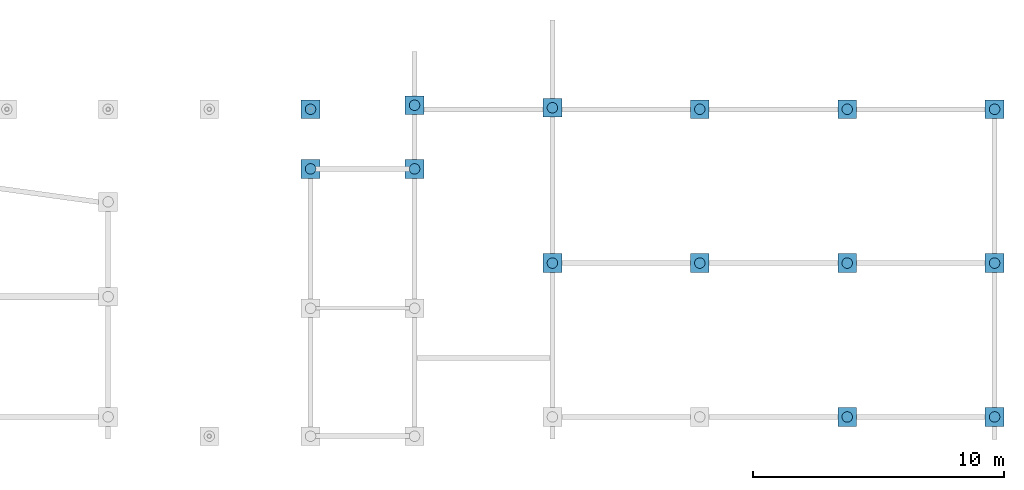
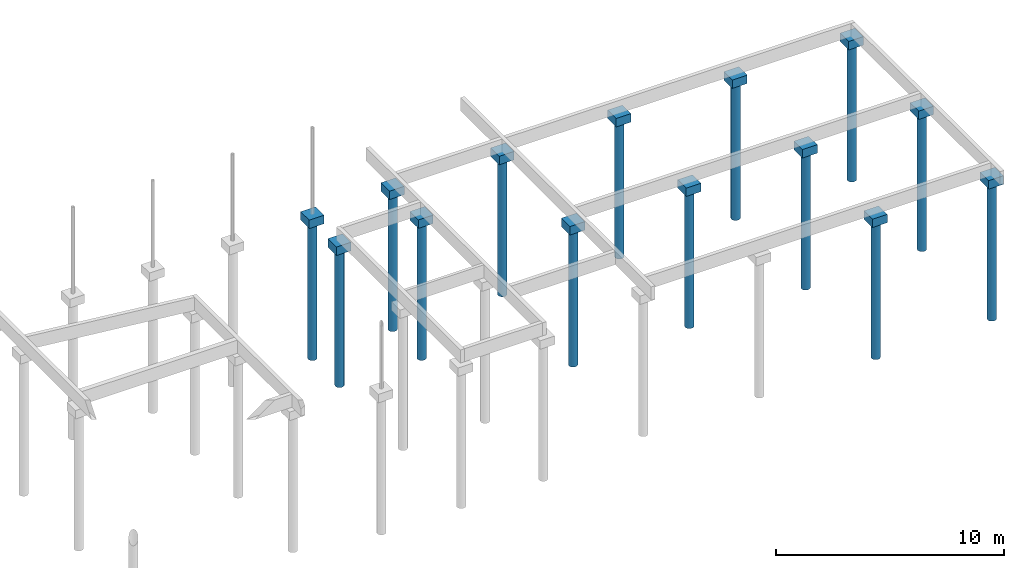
# One storey, part 3 of 3: 28 slabs.
"""IFC2X3 building model written with IfcOpenShell, lengths in metres."""

from ifc_helpers import new_model, entity, si_unit, converted_unit, derived_unit, direction, frame, frame_2d, origin, origin_2d_with_axis, place, context, subcontext, project, spatial, rectangle, circle, extrude, material, element, save


model = new_model("IFC2X3")

# Units and contexts
model_context = context("Model", 3, precision=1e-05, world=origin(), true_north=direction((6.12303176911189e-17, 1.0)))
body_context = subcontext(model_context, "Body", "Model", "MODEL_VIEW")
ifc_project = project(units=[si_unit("LENGTHUNIT", "METRE"), si_unit("AREAUNIT", "SQUARE_METRE"), si_unit("VOLUMEUNIT", "CUBIC_METRE"), converted_unit("PLANEANGLEUNIT", "DEGREE", entity("IfcRatioMeasure", 0.0174532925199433), si_unit("PLANEANGLEUNIT", "RADIAN"), dimensions=[0, 0, 0, 0, 0, 0, 0]), si_unit("MASSUNIT", "GRAM", prefix="KILO"), si_unit("TIMEUNIT", "SECOND"), si_unit("FREQUENCYUNIT", "HERTZ"), si_unit("THERMODYNAMICTEMPERATUREUNIT", "DEGREE_CELSIUS"), derived_unit("THERMALTRANSMITTANCEUNIT", [(si_unit("MASSUNIT", "GRAM", prefix="KILO"), 1), (si_unit("THERMODYNAMICTEMPERATUREUNIT", "KELVIN"), -1), (si_unit("TIMEUNIT", "SECOND"), -3)]), derived_unit("VOLUMETRICFLOWRATEUNIT", [(si_unit("LENGTHUNIT", "METRE"), 3), (si_unit("TIMEUNIT", "SECOND"), -1)]), si_unit("ELECTRICCURRENTUNIT", "AMPERE"), si_unit("ELECTRICVOLTAGEUNIT", "VOLT"), si_unit("POWERUNIT", "WATT"), si_unit("FORCEUNIT", "NEWTON", prefix="KILO"), si_unit("ILLUMINANCEUNIT", "LUX"), si_unit("LUMINOUSFLUXUNIT", "LUMEN"), si_unit("LUMINOUSINTENSITYUNIT", "CANDELA"), derived_unit("USERDEFINED", [(si_unit("MASSUNIT", "GRAM", prefix="KILO"), -1), (si_unit("LENGTHUNIT", "METRE"), -2), (si_unit("TIMEUNIT", "SECOND"), 3), (si_unit("LUMINOUSFLUXUNIT", "LUMEN"), 1)]), derived_unit("LINEARVELOCITYUNIT", [(si_unit("LENGTHUNIT", "METRE"), 1), (si_unit("TIMEUNIT", "SECOND"), -1)]), si_unit("PRESSUREUNIT", "PASCAL"), derived_unit("USERDEFINED", [(si_unit("LENGTHUNIT", "METRE"), -2), (si_unit("MASSUNIT", "GRAM", prefix="KILO"), 1), (si_unit("TIMEUNIT", "SECOND"), -2)])], contexts=[model_context])

# Site, building, storey
site_placement = place(None, origin())
site = spatial("IfcSite", under=ifc_project, at=site_placement, Name="Default", CompositionType="ELEMENT")
building_placement = place(site_placement, origin())
building = spatial("IfcBuilding", under=site, at=building_placement, CompositionType="ELEMENT")
storey_placement = place(building_placement, frame((0.0, 0.0, -0.77)))
storey = spatial("IfcBuildingStorey", under=building, at=storey_placement, Name="Fondation", CompositionType="ELEMENT", Elevation=-0.77)

# Slabs
ifc_material_1 = material(Name="Béton - Béton coulé sur place")
slab_1_placement = place(storey_placement, frame((-6.40051543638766, 6.77024988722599, -0.45)))
element("IfcSlab", 1, at=slab_1_placement, inside=storey, material=ifc_material_1, Name="Base rectangulaire:Semelle 0.75 x 0.75 x 0.45", ObjectType="Base rectangulaire:Semelle 0.75 x 0.75 x 0.45", PredefinedType="FLOOR", context=body_context, shape_type="SweptSolid", body=[
    extrude(rectangle(XDim=0.75, YDim=0.75, at=frame_2d((5.27355936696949e-16, -5.27355936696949e-16), x_axis=(1.0, 0.0))), frame((0.374999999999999, 0.374999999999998, 0.0), z_axis=(0.0, 0.0, 1.0), x_axis=(-1.0, 0.0, 0.0)), (0.0, 0.0, 1.0), 0.45),
    extrude(rectangle(XDim=0.75, YDim=0.75, at=frame_2d((5.27355936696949e-16, -5.27355936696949e-16), x_axis=(1.0, 0.0))), frame((0.374999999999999, 0.374999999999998, 0.0), z_axis=(0.0, 0.0, 1.0), x_axis=(-1.0, 0.0, 0.0)), (0.0, 0.0, 1.0), 0.45),
])
ifc_material_2 = material(Name="Maçonnerie - Béton coulé sur place")
slab_2_placement = place(storey_placement, frame((-6.23710293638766, 6.93519352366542, -7.73)))
element("IfcSlab", 2, at=slab_2_placement, inside=storey, material=ifc_material_2, Name="Pieu-Conduite en acier:Pieu 420mm", ObjectType="Pieu-Conduite en acier:Pieu 420mm", PredefinedType="FLOOR", context=body_context, shape_type="SweptSolid", body=[
    extrude(circle(Radius=0.21, at=origin_2d_with_axis()), frame((0.2115875, 0.210056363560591, 0.0)), (0.0, 0.0, 1.0), 7.28),
])
slab_3_placement = place(storey_placement, frame((-2.24743030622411, 6.77024988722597, -0.45)))
element("IfcSlab", 3, at=slab_3_placement, inside=storey, material=ifc_material_1, Name="Base rectangulaire:Semelle 0.75 x 0.75 x 0.45", ObjectType="Base rectangulaire:Semelle 0.75 x 0.75 x 0.45", PredefinedType="FLOOR", context=body_context, shape_type="SweptSolid", body=[
    extrude(rectangle(XDim=0.75, YDim=0.75, at=frame_2d((-1.38777878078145e-16, -5.27355936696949e-16), x_axis=(1.0, 0.0))), frame((0.375, 0.374999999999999, 0.0), z_axis=(0.0, 0.0, 1.0), x_axis=(-1.0, 0.0, 0.0)), (0.0, 0.0, 1.0), 0.45),
    extrude(rectangle(XDim=0.75, YDim=0.75, at=frame_2d((-1.38777878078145e-16, -5.27355936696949e-16), x_axis=(1.0, 0.0))), frame((0.375, 0.374999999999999, 0.0), z_axis=(0.0, 0.0, 1.0), x_axis=(-1.0, 0.0, 0.0)), (0.0, 0.0, 1.0), 0.45),
])
slab_4_placement = place(storey_placement, frame((-2.08401780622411, 6.9351935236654, -7.73)))
element("IfcSlab", 4, at=slab_4_placement, inside=storey, material=ifc_material_2, Name="Pieu-Conduite en acier:Pieu 420mm", ObjectType="Pieu-Conduite en acier:Pieu 420mm", PredefinedType="FLOOR", context=body_context, shape_type="SweptSolid", body=[
    extrude(circle(Radius=0.21, at=origin_2d_with_axis()), frame((0.2115875, 0.210056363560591, 0.0)), (0.0, 0.0, 1.0), 7.28),
])
slab_5_placement = place(storey_placement, frame((-6.40051543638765, 9.15024996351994, -0.45)))
element("IfcSlab", 5, at=slab_5_placement, inside=storey, material=ifc_material_1, Name="Base rectangulaire:Semelle 0.75 x 0.75 x 0.45", ObjectType="Base rectangulaire:Semelle 0.75 x 0.75 x 0.45", PredefinedType="FLOOR", context=body_context, shape_type="SweptSolid", body=[
    extrude(rectangle(XDim=0.75, YDim=0.75, at=frame_2d((5.27355936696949e-16, -5.27355936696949e-16), x_axis=(1.0, 0.0))), frame((0.374999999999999, 0.374999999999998, 0.0), z_axis=(0.0, 0.0, 1.0), x_axis=(-1.0, 0.0, 0.0)), (0.0, 0.0, 1.0), 0.45),
    extrude(rectangle(XDim=0.75, YDim=0.75, at=frame_2d((5.27355936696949e-16, -5.27355936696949e-16), x_axis=(1.0, 0.0))), frame((0.374999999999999, 0.374999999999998, 0.0), z_axis=(0.0, 0.0, 1.0), x_axis=(-1.0, 0.0, 0.0)), (0.0, 0.0, 1.0), 0.45),
])
slab_6_placement = place(storey_placement, frame((-6.23710293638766, 9.31519359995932, -7.73)))
element("IfcSlab", 6, at=slab_6_placement, inside=storey, material=ifc_material_2, Name="Pieu-Conduite en acier:Pieu 420mm", ObjectType="Pieu-Conduite en acier:Pieu 420mm", PredefinedType="FLOOR", context=body_context, shape_type="SweptSolid", body=[
    extrude(circle(Radius=0.21, at=origin_2d_with_axis()), frame((0.2115875, 0.210056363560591, 0.0)), (0.0, 0.0, 1.0), 7.28),
])
slab_7_placement = place(storey_placement, frame((-2.24742964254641, 9.31024949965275, -0.45)))
element("IfcSlab", 7, at=slab_7_placement, inside=storey, material=ifc_material_1, Name="Base rectangulaire:Semelle 0.75 x 0.75 x 0.45", ObjectType="Base rectangulaire:Semelle 0.75 x 0.75 x 0.45", PredefinedType="FLOOR", context=body_context, shape_type="SweptSolid", body=[
    extrude(rectangle(XDim=0.75, YDim=0.75, at=frame_2d((1.38777878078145e-16, 5.27355936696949e-16), x_axis=(1.0, 0.0))), frame((0.375, 0.374999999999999, 0.0), z_axis=(0.0, 0.0, 1.0), x_axis=(-1.0, 0.0, 0.0)), (0.0, 0.0, 1.0), 0.45),
    extrude(rectangle(XDim=0.75, YDim=0.75, at=frame_2d((1.38777878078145e-16, 5.27355936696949e-16), x_axis=(1.0, 0.0))), frame((0.375, 0.374999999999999, 0.0), z_axis=(0.0, 0.0, 1.0), x_axis=(-1.0, 0.0, 0.0)), (0.0, 0.0, 1.0), 0.45),
])
slab_8_placement = place(storey_placement, frame((-2.08401714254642, 9.47519313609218, -7.73)))
element("IfcSlab", 8, at=slab_8_placement, inside=storey, material=ifc_material_2, Name="Pieu-Conduite en acier:Pieu 420mm", ObjectType="Pieu-Conduite en acier:Pieu 420mm", PredefinedType="FLOOR", context=body_context, shape_type="SweptSolid", body=[
    extrude(circle(Radius=0.21, at=origin_2d_with_axis()), frame((0.2115875, 0.210056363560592, 0.0)), (0.0, 0.0, 1.0), 7.28),
])
slab_9_placement = place(storey_placement, frame((3.25257078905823, 9.21024978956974, -0.45)))
element("IfcSlab", 9, at=slab_9_placement, inside=storey, material=ifc_material_1, Name="Base rectangulaire:Semelle 0.75 x 0.75 x 0.45", ObjectType="Base rectangulaire:Semelle 0.75 x 0.75 x 0.45", PredefinedType="FLOOR", context=body_context, shape_type="SweptSolid", body=[
    extrude(rectangle(XDim=0.75, YDim=0.75, at=frame_2d((-2.4980018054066e-16, 5.27355936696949e-16), x_axis=(1.0, 0.0))), frame((0.375, 0.374999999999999, 0.0), z_axis=(0.0, 0.0, 1.0), x_axis=(-1.0, 0.0, 0.0)), (0.0, 0.0, 1.0), 0.45),
    extrude(rectangle(XDim=0.75, YDim=0.75, at=frame_2d((-2.4980018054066e-16, 5.27355936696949e-16), x_axis=(1.0, 0.0))), frame((0.375, 0.374999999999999, 0.0), z_axis=(0.0, 0.0, 1.0), x_axis=(-1.0, 0.0, 0.0)), (0.0, 0.0, 1.0), 0.45),
])
slab_10_placement = place(storey_placement, frame((3.41598328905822, 9.37519342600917, -7.73)))
element("IfcSlab", 10, at=slab_10_placement, inside=storey, material=ifc_material_2, Name="Pieu-Conduite en acier:Pieu 420mm", ObjectType="Pieu-Conduite en acier:Pieu 420mm", PredefinedType="FLOOR", context=body_context, shape_type="SweptSolid", body=[
    extrude(circle(Radius=0.21, at=origin_2d_with_axis()), frame((0.2115875, 0.210056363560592, 0.0)), (0.0, 0.0, 1.0), 7.28),
])
slab_11_placement = place(storey_placement, frame((9.1359042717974, 9.15024968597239, -0.45)))
element("IfcSlab", 11, at=slab_11_placement, inside=storey, material=ifc_material_1, Name="Base rectangulaire:Semelle 0.75 x 0.75 x 0.45", ObjectType="Base rectangulaire:Semelle 0.75 x 0.75 x 0.45", PredefinedType="FLOOR", context=body_context, shape_type="SweptSolid", body=[
    extrude(rectangle(XDim=0.75, YDim=0.75, at=frame_2d((5.27355936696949e-16, -5.27355936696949e-16), x_axis=(1.0, 0.0))), frame((0.374999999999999, 0.374999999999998, 0.0), z_axis=(0.0, 0.0, 1.0), x_axis=(-1.0, 0.0, 0.0)), (0.0, 0.0, 1.0), 0.45),
    extrude(rectangle(XDim=0.75, YDim=0.75, at=frame_2d((5.27355936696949e-16, -5.27355936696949e-16), x_axis=(1.0, 0.0))), frame((0.374999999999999, 0.374999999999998, 0.0), z_axis=(0.0, 0.0, 1.0), x_axis=(-1.0, 0.0, 0.0)), (0.0, 0.0, 1.0), 0.45),
])
slab_12_placement = place(storey_placement, frame((9.2993167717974, 9.31519332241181, -7.73)))
element("IfcSlab", 12, at=slab_12_placement, inside=storey, material=ifc_material_2, Name="Pieu-Conduite en acier:Pieu 420mm", ObjectType="Pieu-Conduite en acier:Pieu 420mm", PredefinedType="FLOOR", context=body_context, shape_type="SweptSolid", body=[
    extrude(circle(Radius=0.21, at=origin_2d_with_axis()), frame((0.2115875, 0.210056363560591, 0.0)), (0.0, 0.0, 1.0), 7.28),
])
slab_13_placement = place(storey_placement, frame((15.0192381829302, 9.15024968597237, -0.45)))
element("IfcSlab", 13, at=slab_13_placement, inside=storey, material=ifc_material_1, Name="Base rectangulaire:Semelle 0.75 x 0.75 x 0.45", ObjectType="Base rectangulaire:Semelle 0.75 x 0.75 x 0.45", PredefinedType="FLOOR", context=body_context, shape_type="SweptSolid", body=[
    extrude(rectangle(XDim=0.750000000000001, YDim=0.75, at=frame_2d((-1.08246744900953e-15, 5.27355936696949e-16), x_axis=(1.0, 0.0))), frame((0.374999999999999, 0.374999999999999, 0.0), z_axis=(0.0, 0.0, 1.0), x_axis=(-1.0, 0.0, 0.0)), (0.0, 0.0, 1.0), 0.45),
    extrude(rectangle(XDim=0.750000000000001, YDim=0.75, at=frame_2d((-1.08246744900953e-15, 5.27355936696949e-16), x_axis=(1.0, 0.0))), frame((0.374999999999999, 0.374999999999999, 0.0), z_axis=(0.0, 0.0, 1.0), x_axis=(-1.0, 0.0, 0.0)), (0.0, 0.0, 1.0), 0.45),
])
slab_14_placement = place(storey_placement, frame((15.1826506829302, 9.31519332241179, -7.73)))
element("IfcSlab", 14, at=slab_14_placement, inside=storey, material=ifc_material_2, Name="Pieu-Conduite en acier:Pieu 420mm", ObjectType="Pieu-Conduite en acier:Pieu 420mm", PredefinedType="FLOOR", context=body_context, shape_type="SweptSolid", body=[
    extrude(circle(Radius=0.21, at=origin_2d_with_axis()), frame((0.211587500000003, 0.210056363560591, 0.0)), (0.0, 0.0, 1.0), 7.28),
])
slab_15_placement = place(storey_placement, frame((20.902571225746, 9.15024968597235, -0.45)))
element("IfcSlab", 15, at=slab_15_placement, inside=storey, material=ifc_material_1, Name="Base rectangulaire:Semelle 0.75 x 0.75 x 0.45", ObjectType="Base rectangulaire:Semelle 0.75 x 0.75 x 0.45", PredefinedType="FLOOR", context=body_context, shape_type="SweptSolid", body=[
    extrude(rectangle(XDim=0.749999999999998, YDim=0.75, at=frame_2d((2.16493489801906e-15, -5.27355936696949e-16), x_axis=(1.0, 0.0))), frame((0.375000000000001, 0.374999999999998, 0.0), z_axis=(0.0, 0.0, 1.0), x_axis=(-1.0, 0.0, 0.0)), (0.0, 0.0, 1.0), 0.45),
    extrude(rectangle(XDim=0.749999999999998, YDim=0.75, at=frame_2d((2.16493489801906e-15, -5.27355936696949e-16), x_axis=(1.0, 0.0))), frame((0.375000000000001, 0.374999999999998, 0.0), z_axis=(0.0, 0.0, 1.0), x_axis=(-1.0, 0.0, 0.0)), (0.0, 0.0, 1.0), 0.45),
])
slab_16_placement = place(storey_placement, frame((21.065983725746, 9.31519332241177, -7.73)))
element("IfcSlab", 16, at=slab_16_placement, inside=storey, material=ifc_material_2, Name="Pieu-Conduite en acier:Pieu 420mm", ObjectType="Pieu-Conduite en acier:Pieu 420mm", PredefinedType="FLOOR", context=body_context, shape_type="SweptSolid", body=[
    extrude(circle(Radius=0.21, at=origin_2d_with_axis()), frame((0.211587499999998, 0.210056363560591, 0.0)), (0.0, 0.0, 1.0), 7.28),
])
slab_17_placement = place(storey_placement, frame((3.25257144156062, 3.0102497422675, -0.45)))
element("IfcSlab", 17, at=slab_17_placement, inside=storey, material=ifc_material_1, Name="Base rectangulaire:Semelle 0.75 x 0.75 x 0.45", ObjectType="Base rectangulaire:Semelle 0.75 x 0.75 x 0.45", PredefinedType="FLOOR", context=body_context, shape_type="SweptSolid", body=[
    extrude(rectangle(XDim=0.75, YDim=0.75, at=frame_2d((-2.4980018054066e-16, 0.0), x_axis=(1.0, 0.0))), frame((0.375, 0.375000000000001, 0.0), z_axis=(0.0, 0.0, 1.0), x_axis=(-1.0, 0.0, 0.0)), (0.0, 0.0, 1.0), 0.45),
    extrude(rectangle(XDim=0.75, YDim=0.75, at=frame_2d((-2.4980018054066e-16, 0.0), x_axis=(1.0, 0.0))), frame((0.375, 0.375000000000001, 0.0), z_axis=(0.0, 0.0, 1.0), x_axis=(-1.0, 0.0, 0.0)), (0.0, 0.0, 1.0), 0.45),
])
slab_18_placement = place(storey_placement, frame((3.41598394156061, 3.17519337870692, -7.73)))
element("IfcSlab", 18, at=slab_18_placement, inside=storey, material=ifc_material_2, Name="Pieu-Conduite en acier:Pieu 420mm", ObjectType="Pieu-Conduite en acier:Pieu 420mm", PredefinedType="FLOOR", context=body_context, shape_type="SweptSolid", body=[
    extrude(circle(Radius=0.21, at=frame_2d((0.0, -5.41433564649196e-16), x_axis=(1.0, 0.0))), frame((0.2115875, 0.210056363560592, 0.0)), (0.0, 0.0, 1.0), 7.28),
])
slab_19_placement = place(storey_placement, frame((15.0192381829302, -3.129750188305, -0.45)))
element("IfcSlab", 19, at=slab_19_placement, inside=storey, material=ifc_material_1, Name="Base rectangulaire:Semelle 0.75 x 0.75 x 0.45", ObjectType="Base rectangulaire:Semelle 0.75 x 0.75 x 0.45", PredefinedType="FLOOR", context=body_context, shape_type="SweptSolid", body=[
    extrude(rectangle(XDim=0.750000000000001, YDim=0.75, at=frame_2d((1.08246744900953e-15, 0.0), x_axis=(1.0, 0.0))), frame((0.375000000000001, 0.375000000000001, 0.0), z_axis=(0.0, 0.0, 1.0), x_axis=(-1.0, 0.0, 0.0)), (0.0, 0.0, 1.0), 0.45),
    extrude(rectangle(XDim=0.750000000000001, YDim=0.75, at=frame_2d((1.08246744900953e-15, 0.0), x_axis=(1.0, 0.0))), frame((0.375000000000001, 0.375000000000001, 0.0), z_axis=(0.0, 0.0, 1.0), x_axis=(-1.0, 0.0, 0.0)), (0.0, 0.0, 1.0), 0.45),
])
slab_20_placement = place(storey_placement, frame((15.1826506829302, -2.96480655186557, -7.73)))
element("IfcSlab", 20, at=slab_20_placement, inside=storey, material=ifc_material_2, Name="Pieu-Conduite en acier:Pieu 420mm", ObjectType="Pieu-Conduite en acier:Pieu 420mm", PredefinedType="FLOOR", context=body_context, shape_type="SweptSolid", body=[
    extrude(circle(Radius=0.21, at=frame_2d((0.0, -5.41433564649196e-16), x_axis=(1.0, 0.0))), frame((0.211587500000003, 0.210056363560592, 0.0)), (0.0, 0.0, 1.0), 7.28),
])
slab_21_placement = place(storey_placement, frame((20.9025714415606, -3.12975018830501, -0.45)))
element("IfcSlab", 21, at=slab_21_placement, inside=storey, material=ifc_material_1, Name="Base rectangulaire:Semelle 0.75 x 0.75 x 0.45", ObjectType="Base rectangulaire:Semelle 0.75 x 0.75 x 0.45", PredefinedType="FLOOR", context=body_context, shape_type="SweptSolid", body=[
    extrude(rectangle(XDim=0.749999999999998, YDim=0.75, at=frame_2d((2.16493489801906e-15, 0.0), x_axis=(1.0, 0.0))), frame((0.375000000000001, 0.375000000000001, 0.0), z_axis=(0.0, 0.0, 1.0), x_axis=(-1.0, 0.0, 0.0)), (0.0, 0.0, 1.0), 0.45),
    extrude(rectangle(XDim=0.749999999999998, YDim=0.75, at=frame_2d((2.16493489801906e-15, 0.0), x_axis=(1.0, 0.0))), frame((0.375000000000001, 0.375000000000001, 0.0), z_axis=(0.0, 0.0, 1.0), x_axis=(-1.0, 0.0, 0.0)), (0.0, 0.0, 1.0), 0.45),
])
slab_22_placement = place(storey_placement, frame((21.0659839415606, -2.96480655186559, -7.73)))
element("IfcSlab", 22, at=slab_22_placement, inside=storey, material=ifc_material_2, Name="Pieu-Conduite en acier:Pieu 420mm", ObjectType="Pieu-Conduite en acier:Pieu 420mm", PredefinedType="FLOOR", context=body_context, shape_type="SweptSolid", body=[
    extrude(circle(Radius=0.21, at=frame_2d((0.0, -5.41433564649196e-16), x_axis=(1.0, 0.0))), frame((0.211587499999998, 0.210056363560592, 0.0)), (0.0, 0.0, 1.0), 7.28),
])
slab_23_placement = place(storey_placement, frame((20.9025714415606, 3.01024974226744, -0.45)))
element("IfcSlab", 23, at=slab_23_placement, inside=storey, material=ifc_material_1, Name="Base rectangulaire:Semelle 0.75 x 0.75 x 0.45", ObjectType="Base rectangulaire:Semelle 0.75 x 0.75 x 0.45", PredefinedType="FLOOR", context=body_context, shape_type="SweptSolid", body=[
    extrude(rectangle(XDim=0.749999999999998, YDim=0.75, at=frame_2d((2.16493489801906e-15, 0.0), x_axis=(1.0, 0.0))), frame((0.375000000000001, 0.375000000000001, 0.0), z_axis=(0.0, 0.0, 1.0), x_axis=(-1.0, 0.0, 0.0)), (0.0, 0.0, 1.0), 0.45),
    extrude(rectangle(XDim=0.749999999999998, YDim=0.75, at=frame_2d((2.16493489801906e-15, 0.0), x_axis=(1.0, 0.0))), frame((0.375000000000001, 0.375000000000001, 0.0), z_axis=(0.0, 0.0, 1.0), x_axis=(-1.0, 0.0, 0.0)), (0.0, 0.0, 1.0), 0.45),
])
slab_24_placement = place(storey_placement, frame((21.0659839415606, 3.17519337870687, -7.73)))
element("IfcSlab", 24, at=slab_24_placement, inside=storey, material=ifc_material_2, Name="Pieu-Conduite en acier:Pieu 420mm", ObjectType="Pieu-Conduite en acier:Pieu 420mm", PredefinedType="FLOOR", context=body_context, shape_type="SweptSolid", body=[
    extrude(circle(Radius=0.21, at=frame_2d((0.0, -5.41433564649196e-16), x_axis=(1.0, 0.0))), frame((0.211587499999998, 0.210056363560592, 0.0)), (0.0, 0.0, 1.0), 7.28),
])
slab_25_placement = place(storey_placement, frame((15.0192381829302, 3.01024974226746, -0.45)))
element("IfcSlab", 25, at=slab_25_placement, inside=storey, material=ifc_material_1, Name="Base rectangulaire:Semelle 0.75 x 0.75 x 0.45", ObjectType="Base rectangulaire:Semelle 0.75 x 0.75 x 0.45", PredefinedType="FLOOR", context=body_context, shape_type="SweptSolid", body=[
    extrude(rectangle(XDim=0.750000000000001, YDim=0.75, at=frame_2d((1.08246744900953e-15, 0.0), x_axis=(1.0, 0.0))), frame((0.375000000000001, 0.375000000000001, 0.0), z_axis=(0.0, 0.0, 1.0), x_axis=(-1.0, 0.0, 0.0)), (0.0, 0.0, 1.0), 0.45),
    extrude(rectangle(XDim=0.750000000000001, YDim=0.75, at=frame_2d((1.08246744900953e-15, 0.0), x_axis=(1.0, 0.0))), frame((0.375000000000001, 0.375000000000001, 0.0), z_axis=(0.0, 0.0, 1.0), x_axis=(-1.0, 0.0, 0.0)), (0.0, 0.0, 1.0), 0.45),
])
slab_26_placement = place(storey_placement, frame((15.1826506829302, 3.17519337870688, -7.73)))
element("IfcSlab", 26, at=slab_26_placement, inside=storey, material=ifc_material_2, Name="Pieu-Conduite en acier:Pieu 420mm", ObjectType="Pieu-Conduite en acier:Pieu 420mm", PredefinedType="FLOOR", context=body_context, shape_type="SweptSolid", body=[
    extrude(circle(Radius=0.21, at=frame_2d((0.0, -5.41433564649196e-16), x_axis=(1.0, 0.0))), frame((0.211587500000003, 0.210056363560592, 0.0)), (0.0, 0.0, 1.0), 7.28),
])
slab_27_placement = place(storey_placement, frame((9.1359042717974, 3.01024974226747, -0.45)))
element("IfcSlab", 27, at=slab_27_placement, inside=storey, material=ifc_material_1, Name="Base rectangulaire:Semelle 0.75 x 0.75 x 0.45", ObjectType="Base rectangulaire:Semelle 0.75 x 0.75 x 0.45", PredefinedType="FLOOR", context=body_context, shape_type="SweptSolid", body=[
    extrude(rectangle(XDim=0.75, YDim=0.75, at=frame_2d((5.27355936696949e-16, -5.27355936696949e-16), x_axis=(1.0, 0.0))), frame((0.374999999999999, 0.375, 0.0), z_axis=(0.0, 0.0, 1.0), x_axis=(-1.0, 0.0, 0.0)), (0.0, 0.0, 1.0), 0.45),
    extrude(rectangle(XDim=0.75, YDim=0.75, at=frame_2d((5.27355936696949e-16, -5.27355936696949e-16), x_axis=(1.0, 0.0))), frame((0.374999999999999, 0.375, 0.0), z_axis=(0.0, 0.0, 1.0), x_axis=(-1.0, 0.0, 0.0)), (0.0, 0.0, 1.0), 0.45),
])
slab_28_placement = place(storey_placement, frame((9.29931677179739, 3.1751933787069, -7.73)))
element("IfcSlab", 28, at=slab_28_placement, inside=storey, material=ifc_material_2, Name="Pieu-Conduite en acier:Pieu 420mm", ObjectType="Pieu-Conduite en acier:Pieu 420mm", PredefinedType="FLOOR", context=body_context, shape_type="SweptSolid", body=[
    extrude(circle(Radius=0.21, at=frame_2d((0.0, -5.41433564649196e-16), x_axis=(1.0, 0.0))), frame((0.2115875, 0.210056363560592, 0.0)), (0.0, 0.0, 1.0), 7.28),
])

save(model, "model.ifc")
